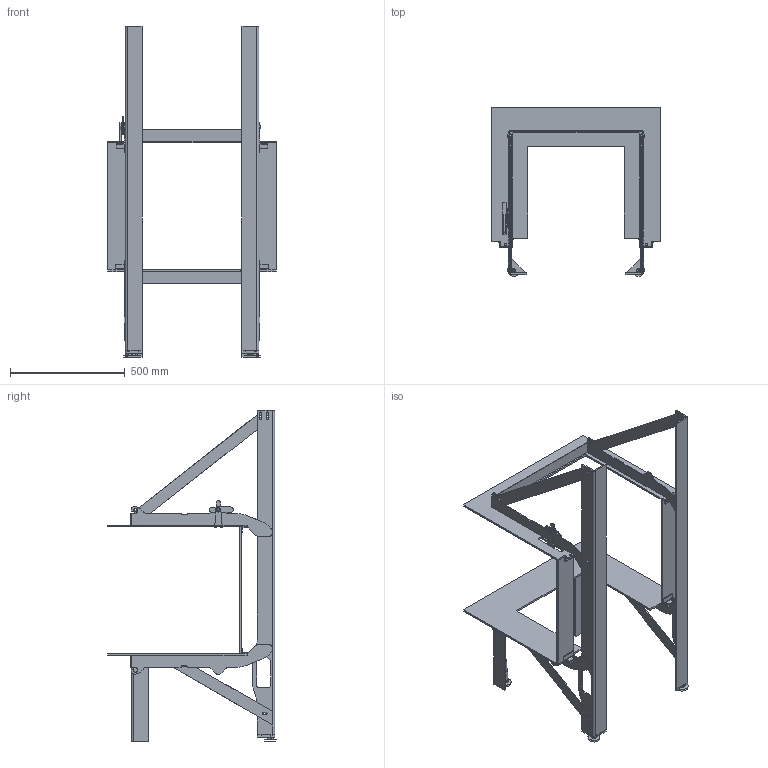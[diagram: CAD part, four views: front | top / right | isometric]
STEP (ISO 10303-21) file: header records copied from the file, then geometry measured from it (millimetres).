
FILE_DESCRIPTION(/* description */ (''),/* implementation_level */ '2;1');
FILE_NAME(/* name */ 'C:\ADSK_DM_WS\CAD_3D\03 Geraete\RIII 55x56x46\Zeichnungen\RIII 55x56x46 Einbaurahmen freistehend CAD Planung defriten 2017-03275 190919.stp',/* time_stamp */ '2019-09-19T11:32:50+02:00',/* author */ ('cpi'),/* organization */ (''),/* preprocessor_version */ 'ST-DEVELOPER v17.2',/* originating_system */ 'Autodesk Inventor 2019',/* authorisation */ '');
FILE_SCHEMA (('AUTOMOTIVE_DESIGN { 1 0 10303 214 3 1 1 }'));
Length unit declared in the file: millimetre
Products named in the file (1): 2019-02753
Bounding box: 735 x 731.44 x 1443.5 mm (x, y, z)
Volume: 8759479.3 mm3; surface area: 2844609 mm2
Topology: 5 solids, 5 shells, 1028 faces, 2911 edges, 1872 vertices
Faces by surface type: plane 556, cylinder 404, cone 68
Full cylindrical faces by diameter (mm): 10 x5, 10.21 x2, 10.4 x1, 10.5 x15, 16 x6, 17 x2, 20 x2, 25 x2, 30 x4
Entity records: 34800 total; most frequent: CARTESIAN_POINT 6516, ORIENTED_EDGE 5822, DIRECTION 5805, EDGE_CURVE 2911, AXIS2_PLACEMENT_3D 2033, VERTEX_POINT 1872, LINE 1739, VECTOR 1739
